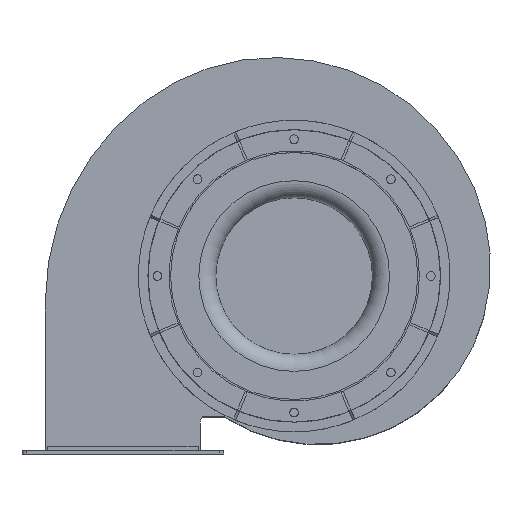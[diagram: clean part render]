
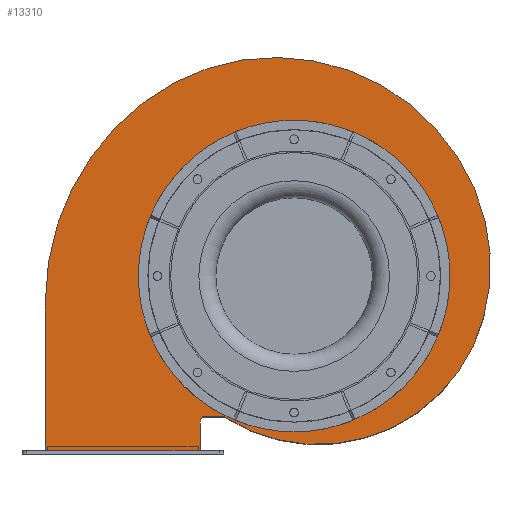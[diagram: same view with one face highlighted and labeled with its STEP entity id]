
A CAD part, top view. The second image highlights one B-rep face of the part: STEP entity #13310.
In plain terms, the highlighted planar face has unit normal (0, 0, 1).
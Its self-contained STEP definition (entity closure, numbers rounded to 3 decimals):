
#1355=FACE_BOUND('',#4634,.T.);
#2101=LINE('',#29928,#3053);
#2103=LINE('',#29940,#3055);
#2104=LINE('',#29944,#3056);
#2105=LINE('',#29953,#3057);
#3053=VECTOR('',#15327,10.);
#3055=VECTOR('',#15339,10.);
#3056=VECTOR('',#15342,10.);
#3057=VECTOR('',#15351,10.);
#3853=FACE_OUTER_BOUND('',#4633,.T.);
#4633=EDGE_LOOP('',(#11530,#11531,#11532,#11533,#11534,#11535,#11536,#11537,
#11538));
#4634=EDGE_LOOP('',(#11539));
#5043=CIRCLE('',#13786,15.);
#5044=CIRCLE('',#13787,216.037);
#5045=CIRCLE('',#13788,247.264);
#5046=CIRCLE('',#13789,272.592);
#5047=CIRCLE('',#13790,314.929);
#5048=CIRCLE('',#13791,196.);
#6240=VERTEX_POINT('',#29925);
#6241=VERTEX_POINT('',#29927);
#6246=VERTEX_POINT('',#29939);
#6247=VERTEX_POINT('',#29941);
#6248=VERTEX_POINT('',#29943);
#6249=VERTEX_POINT('',#29945);
#6250=VERTEX_POINT('',#29947);
#6251=VERTEX_POINT('',#29949);
#6252=VERTEX_POINT('',#29951);
#6253=VERTEX_POINT('',#29954);
#8065=EDGE_CURVE('',#6241,#6240,#2101,.T.);
#8071=EDGE_CURVE('',#6240,#6246,#2103,.T.);
#8072=EDGE_CURVE('',#6247,#6246,#5043,.T.);
#8073=EDGE_CURVE('',#6248,#6247,#2104,.T.);
#8074=EDGE_CURVE('',#6249,#6248,#5044,.T.);
#8075=EDGE_CURVE('',#6249,#6250,#5045,.T.);
#8076=EDGE_CURVE('',#6250,#6251,#5046,.T.);
#8077=EDGE_CURVE('',#6251,#6252,#5047,.T.);
#8078=EDGE_CURVE('',#6252,#6241,#2105,.T.);
#8079=EDGE_CURVE('',#6253,#6253,#5048,.T.);
#11530=ORIENTED_EDGE('',*,*,#8065,.T.);
#11531=ORIENTED_EDGE('',*,*,#8071,.T.);
#11532=ORIENTED_EDGE('',*,*,#8072,.F.);
#11533=ORIENTED_EDGE('',*,*,#8073,.F.);
#11534=ORIENTED_EDGE('',*,*,#8074,.F.);
#11535=ORIENTED_EDGE('',*,*,#8075,.T.);
#11536=ORIENTED_EDGE('',*,*,#8076,.T.);
#11537=ORIENTED_EDGE('',*,*,#8077,.T.);
#11538=ORIENTED_EDGE('',*,*,#8078,.T.);
#11539=ORIENTED_EDGE('',*,*,#8079,.T.);
#12465=PLANE('',#13785);
#13310=ADVANCED_FACE('',(#3853,#1355),#12465,.F.);
#13785=AXIS2_PLACEMENT_3D('',#29938,#15337,#15338);
#13786=AXIS2_PLACEMENT_3D('',#29942,#15340,#15341);
#13787=AXIS2_PLACEMENT_3D('',#29946,#15343,#15344);
#13788=AXIS2_PLACEMENT_3D('',#29948,#15345,#15346);
#13789=AXIS2_PLACEMENT_3D('',#29950,#15347,#15348);
#13790=AXIS2_PLACEMENT_3D('',#29952,#15349,#15350);
#13791=AXIS2_PLACEMENT_3D('',#29955,#15352,#15353);
#15327=DIRECTION('',(1.,0.,0.));
#15337=DIRECTION('center_axis',(0.,0.,
-1.));
#15338=DIRECTION('ref_axis',(-1.,0.,0.));
#15339=DIRECTION('',(0.,1.,0.));
#15340=DIRECTION('center_axis',(0.,0.,
1.));
#15341=DIRECTION('ref_axis',(-1.,0.,0.));
#15342=DIRECTION('',(-1.,0.,0.));
#15343=DIRECTION('center_axis',(0.,0.,
-1.));
#15344=DIRECTION('ref_axis',(-0.575,-0.818,0.));
#15345=DIRECTION('center_axis',(0.,0.,
1.));
#15346=DIRECTION('ref_axis',(0.964,-0.267,0.));
#15347=DIRECTION('center_axis',(0.,0.,
1.));
#15348=DIRECTION('ref_axis',(0.615,0.789,0.));
#15349=DIRECTION('center_axis',(0.,0.,
1.));
#15350=DIRECTION('ref_axis',(-0.997,0.077,0.));
#15351=DIRECTION('',(0.,-1.,0.));
#15352=DIRECTION('center_axis',(0.,0.,
-1.));
#15353=DIRECTION('ref_axis',(0.,-1.,0.));
#29925=CARTESIAN_POINT('',(-118.,-219.,3.));
#29927=CARTESIAN_POINT('',(-313.,-219.,3.));
#29928=CARTESIAN_POINT('',(-173.511,-219.,3.));
#29938=CARTESIAN_POINT('Origin',(-131.522,-131.522,3.));
#29939=CARTESIAN_POINT('',(-118.,-185.,3.));
#29940=CARTESIAN_POINT('',(-118.,-197.,3.));
#29941=CARTESIAN_POINT('',(-115.879,-177.31,3.));
#29942=CARTESIAN_POINT('Origin',(-103.,-185.,3.));
#29943=CARTESIAN_POINT('',(-87.583,-177.31,3.));
#29944=CARTESIAN_POINT('',(-220.761,-177.31,3.));
#29945=CARTESIAN_POINT('',(238.008,-53.693,3.));
#29946=CARTESIAN_POINT('Origin',(29.827,4.037,3.));
#29947=CARTESIAN_POINT('',(227.022,109.749,3.));
#29948=CARTESIAN_POINT('Origin',(-0.264,12.382,3.));
#29949=CARTESIAN_POINT('',(-187.57,220.129,3.));
#29950=CARTESIAN_POINT('Origin',(-23.546,2.408,3.));
#29951=CARTESIAN_POINT('',(-313.,-31.407,3.));
#29952=CARTESIAN_POINT('Origin',(1.929,-31.407,3.));
#29953=CARTESIAN_POINT('',(-313.,-177.31,3.));
#29954=CARTESIAN_POINT('',(0.383,196.,3.));
#29955=CARTESIAN_POINT('Origin',(0.,0.,
3.));
